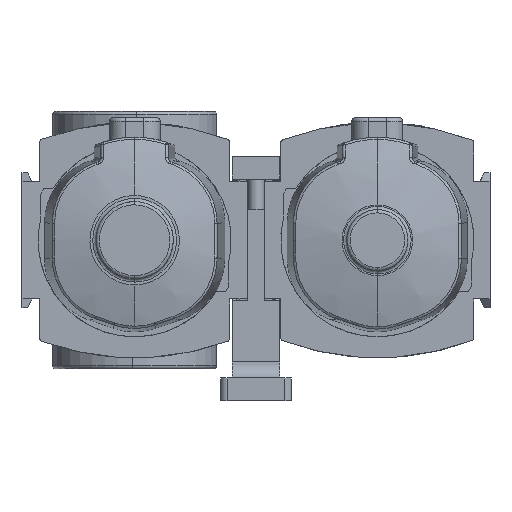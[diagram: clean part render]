
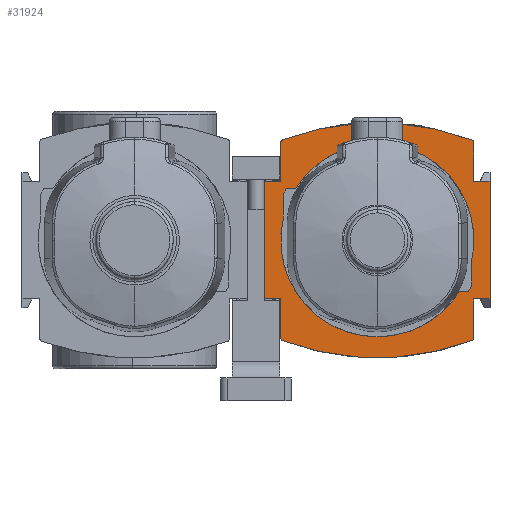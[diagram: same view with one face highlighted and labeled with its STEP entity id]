
A CAD part, front view. The second image highlights one B-rep face of the part: STEP entity #31924.
In plain terms, the highlighted planar face has unit normal (0, -1, 0).
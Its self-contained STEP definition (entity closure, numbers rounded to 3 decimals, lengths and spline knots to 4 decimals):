
#19921=FACE_BOUND('',#39146,.T.);
#23028=LINE('',#108341,#27191);
#23031=LINE('',#108349,#27194);
#23034=LINE('',#108357,#27197);
#23038=LINE('',#108369,#27201);
#23143=LINE('',#109538,#27319);
#23148=LINE('',#109548,#27324);
#23151=LINE('',#109553,#27327);
#23166=LINE('',#109603,#27342);
#23203=LINE('',#109677,#27379);
#23207=LINE('',#109684,#27383);
#23209=LINE('',#109687,#27385);
#23210=LINE('',#109695,#27386);
#23211=LINE('',#109696,#27387);
#23212=LINE('',#109697,#27388);
#27191=VECTOR('',#78359,1.);
#27194=VECTOR('',#78368,1.);
#27197=VECTOR('',#78377,1.);
#27201=VECTOR('',#78391,1.);
#27319=VECTOR('',#78691,1.);
#27324=VECTOR('',#78698,1.);
#27327=VECTOR('',#78703,1.);
#27342=VECTOR('',#78744,1.);
#27379=VECTOR('',#78805,1.);
#27383=VECTOR('',#78811,1.);
#27385=VECTOR('',#78815,1.);
#27386=VECTOR('',#78822,1.);
#27387=VECTOR('',#78823,1.);
#27388=VECTOR('',#78824,1.);
#29660=CIRCLE('',#69624,1.2795);
#29661=CIRCLE('',#69627,1.1811);
#29662=CIRCLE('',#69630,1.2795);
#29663=CIRCLE('',#69633,1.1811);
#29664=CIRCLE('',#69635,1.1811);
#29693=CIRCLE('',#69732,0.0394);
#29695=CIRCLE('',#69735,3.3071);
#29698=CIRCLE('',#69739,0.0394);
#29699=CIRCLE('',#69757,0.0394);
#29700=CIRCLE('',#69758,3.3071);
#29701=CIRCLE('',#69759,0.0394);
#31924=ADVANCED_FACE('',(#36256,#19921),#33708,.F.);
#33708=PLANE('',#69760);
#36256=FACE_OUTER_BOUND('',#39145,.T.);
#39145=EDGE_LOOP('',(#49566,#49567,#49568,#49569,#49570,#49571,#49572,#49573,
#49574,#49575,#49576,#49577,#49578,#49579,#49580,#49581));
#39146=EDGE_LOOP('',(#49582,#49583,#49584,#49585,#49586,#49587,#49588,#49589,
#49590));
#49566=ORIENTED_EDGE('',*,*,#63306,.F.);
#49567=ORIENTED_EDGE('',*,*,#63307,.T.);
#49568=ORIENTED_EDGE('',*,*,#63308,.T.);
#49569=ORIENTED_EDGE('',*,*,#63309,.T.);
#49570=ORIENTED_EDGE('',*,*,#63310,.F.);
#49571=ORIENTED_EDGE('',*,*,#63240,.T.);
#49572=ORIENTED_EDGE('',*,*,#63232,.F.);
#49573=ORIENTED_EDGE('',*,*,#63237,.T.);
#49574=ORIENTED_EDGE('',*,*,#63311,.F.);
#49575=ORIENTED_EDGE('',*,*,#63244,.T.);
#49576=ORIENTED_EDGE('',*,*,#63249,.T.);
#49577=ORIENTED_EDGE('',*,*,#63253,.T.);
#49578=ORIENTED_EDGE('',*,*,#63312,.F.);
#49579=ORIENTED_EDGE('',*,*,#63263,.T.);
#49580=ORIENTED_EDGE('',*,*,#63300,.F.);
#49581=ORIENTED_EDGE('',*,*,#63304,.T.);
#49582=ORIENTED_EDGE('',*,*,#63043,.T.);
#49583=ORIENTED_EDGE('',*,*,#63041,.T.);
#49584=ORIENTED_EDGE('',*,*,#63039,.T.);
#49585=ORIENTED_EDGE('',*,*,#63037,.T.);
#49586=ORIENTED_EDGE('',*,*,#63035,.T.);
#49587=ORIENTED_EDGE('',*,*,#63033,.T.);
#49588=ORIENTED_EDGE('',*,*,#63031,.T.);
#49589=ORIENTED_EDGE('',*,*,#63029,.T.);
#49590=ORIENTED_EDGE('',*,*,#63026,.T.);
#56879=VERTEX_POINT('',#108336);
#56880=VERTEX_POINT('',#108337);
#56881=VERTEX_POINT('',#108342);
#56882=VERTEX_POINT('',#108346);
#56883=VERTEX_POINT('',#108350);
#56884=VERTEX_POINT('',#108354);
#56885=VERTEX_POINT('',#108358);
#56886=VERTEX_POINT('',#108362);
#56887=VERTEX_POINT('',#108366);
#57023=VERTEX_POINT('',#109537);
#57024=VERTEX_POINT('',#109539);
#57027=VERTEX_POINT('',#109547);
#57029=VERTEX_POINT('',#109554);
#57032=VERTEX_POINT('',#109561);
#57033=VERTEX_POINT('',#109563);
#57037=VERTEX_POINT('',#109573);
#57039=VERTEX_POINT('',#109580);
#57048=VERTEX_POINT('',#109602);
#57049=VERTEX_POINT('',#109604);
#57073=VERTEX_POINT('',#109676);
#57075=VERTEX_POINT('',#109683);
#57076=VERTEX_POINT('',#109688);
#57077=VERTEX_POINT('',#109690);
#57078=VERTEX_POINT('',#109692);
#57079=VERTEX_POINT('',#109694);
#63026=EDGE_CURVE('',#56879,#56880,#29660,.T.);
#63029=EDGE_CURVE('',#56881,#56879,#23028,.T.);
#63031=EDGE_CURVE('',#56882,#56881,#29661,.T.);
#63033=EDGE_CURVE('',#56883,#56882,#23031,.T.);
#63035=EDGE_CURVE('',#56884,#56883,#29662,.T.);
#63037=EDGE_CURVE('',#56885,#56884,#23034,.T.);
#63039=EDGE_CURVE('',#56886,#56885,#29663,.T.);
#63041=EDGE_CURVE('',#56887,#56886,#29664,.T.);
#63043=EDGE_CURVE('',#56880,#56887,#23038,.T.);
#63232=EDGE_CURVE('',#57023,#57024,#23143,.T.);
#63237=EDGE_CURVE('',#57023,#57027,#23148,.T.);
#63240=EDGE_CURVE('',#57029,#57024,#23151,.T.);
#63244=EDGE_CURVE('',#57033,#57032,#29693,.T.);
#63249=EDGE_CURVE('',#57032,#57037,#29695,.T.);
#63253=EDGE_CURVE('',#57037,#57039,#29698,.T.);
#63263=EDGE_CURVE('',#57049,#57048,#23166,.T.);
#63300=EDGE_CURVE('',#57073,#57048,#23203,.T.);
#63304=EDGE_CURVE('',#57073,#57075,#23207,.T.);
#63306=EDGE_CURVE('',#57076,#57075,#23209,.T.);
#63307=EDGE_CURVE('',#57076,#57077,#29699,.T.);
#63308=EDGE_CURVE('',#57077,#57078,#29700,.T.);
#63309=EDGE_CURVE('',#57078,#57079,#29701,.T.);
#63310=EDGE_CURVE('',#57029,#57079,#23210,.T.);
#63311=EDGE_CURVE('',#57033,#57027,#23211,.T.);
#63312=EDGE_CURVE('',#57049,#57039,#23212,.T.);
#69624=AXIS2_PLACEMENT_3D('',#108335,#78353,#78354);
#69627=AXIS2_PLACEMENT_3D('',#108345,#78363,#78364);
#69630=AXIS2_PLACEMENT_3D('',#108353,#78372,#78373);
#69633=AXIS2_PLACEMENT_3D('',#108361,#78381,#78382);
#69635=AXIS2_PLACEMENT_3D('',#108365,#78386,#78387);
#69732=AXIS2_PLACEMENT_3D('',#109562,#78710,#78711);
#69735=AXIS2_PLACEMENT_3D('',#109574,#78718,#78719);
#69739=AXIS2_PLACEMENT_3D('',#109581,#78727,#78728);
#69757=AXIS2_PLACEMENT_3D('',#109689,#78816,#78817);
#69758=AXIS2_PLACEMENT_3D('',#109691,#78818,#78819);
#69759=AXIS2_PLACEMENT_3D('',#109693,#78820,#78821);
#69760=AXIS2_PLACEMENT_3D('',#109698,#78825,#78826);
#78353=DIRECTION('',(0.,1.,0.));
#78354=DIRECTION('',(0.,0.,1.));
#78359=DIRECTION('',(0.,0.,1.));
#78363=DIRECTION('',(0.,1.,0.));
#78364=DIRECTION('',(0.,0.,1.));
#78368=DIRECTION('',(-1.,0.,0.));
#78372=DIRECTION('',(0.,1.,0.));
#78373=DIRECTION('',(0.,0.,1.));
#78377=DIRECTION('',(0.,0.,-1.));
#78381=DIRECTION('',(0.,1.,0.));
#78382=DIRECTION('',(0.,0.,1.));
#78386=DIRECTION('',(0.,1.,0.));
#78387=DIRECTION('',(0.,0.,1.));
#78391=DIRECTION('',(1.,0.,0.));
#78691=DIRECTION('',(0.,0.,1.));
#78698=DIRECTION('',(1.,0.,0.));
#78703=DIRECTION('',(-1.,0.,0.));
#78710=DIRECTION('',(0.,-1.,0.));
#78711=DIRECTION('',(0.,0.,1.));
#78718=DIRECTION('',(0.,-1.,0.));
#78719=DIRECTION('',(0.,0.,1.));
#78727=DIRECTION('',(0.,-1.,0.));
#78728=DIRECTION('',(0.,0.,1.));
#78744=DIRECTION('',(1.,0.,0.));
#78805=DIRECTION('',(0.,0.,-1.));
#78811=DIRECTION('',(-1.,0.,0.));
#78815=DIRECTION('',(0.,0.,-1.));
#78816=DIRECTION('',(0.,-1.,0.));
#78817=DIRECTION('',(0.,0.,1.));
#78818=DIRECTION('',(0.,-1.,0.));
#78819=DIRECTION('',(0.,0.,1.));
#78820=DIRECTION('',(0.,-1.,0.));
#78821=DIRECTION('',(0.,0.,1.));
#78822=DIRECTION('',(0.,0.,1.));
#78823=DIRECTION('',(0.,0.,1.));
#78824=DIRECTION('',(0.,0.,-1.));
#78825=DIRECTION('',(0.,1.,0.));
#78826=DIRECTION('',(0.,0.,1.));
#108335=CARTESIAN_POINT('',(2.9685,0.,0.));
#108336=CARTESIAN_POINT('',(1.8189,0.,0.5617));
#108337=CARTESIAN_POINT('',(1.8548,0.,0.6299));
#108341=CARTESIAN_POINT('',(1.8189,0.,0.5617));
#108342=CARTESIAN_POINT('',(1.8189,0.,0.2708));
#108345=CARTESIAN_POINT('',(2.9685,0.,0.));
#108346=CARTESIAN_POINT('',(3.9676,0.,-0.6299));
#108349=CARTESIAN_POINT('',(3.9676,0.,-0.6299));
#108350=CARTESIAN_POINT('',(4.0822,0.,-0.6299));
#108353=CARTESIAN_POINT('',(2.9685,0.,0.));
#108354=CARTESIAN_POINT('',(4.1181,0.,-0.5617));
#108357=CARTESIAN_POINT('',(4.1181,0.,-0.5617));
#108358=CARTESIAN_POINT('',(4.1181,0.,-0.2708));
#108361=CARTESIAN_POINT('',(2.9685,0.,0.));
#108362=CARTESIAN_POINT('',(2.9685,0.,1.1811));
#108365=CARTESIAN_POINT('',(2.9685,0.,0.));
#108366=CARTESIAN_POINT('',(1.9694,0.,0.6299));
#108369=CARTESIAN_POINT('',(1.9694,0.,0.6299));
#109537=CARTESIAN_POINT('',(1.5906,0.,-0.7185));
#109538=CARTESIAN_POINT('',(1.5906,0.,-1.437));
#109539=CARTESIAN_POINT('',(1.5906,0.,0.7185));
#109547=CARTESIAN_POINT('',(1.7874,0.,-0.7185));
#109548=CARTESIAN_POINT('',(1.5906,0.,-0.7185));
#109553=CARTESIAN_POINT('',(1.7874,0.,0.7185));
#109554=CARTESIAN_POINT('',(1.7874,0.,0.7185));
#109561=CARTESIAN_POINT('',(1.813,0.,-1.2286));
#109562=CARTESIAN_POINT('',(1.8268,0.,-1.1917));
#109563=CARTESIAN_POINT('',(1.7874,0.,-1.1917));
#109573=CARTESIAN_POINT('',(4.124,0.,-1.2286));
#109574=CARTESIAN_POINT('',(2.9685,0.,1.8701));
#109580=CARTESIAN_POINT('',(4.1496,0.,-1.1917));
#109581=CARTESIAN_POINT('',(4.1102,0.,-1.1917));
#109602=CARTESIAN_POINT('',(4.3465,0.,-0.7185));
#109603=CARTESIAN_POINT('',(4.1496,0.,-0.7185));
#109604=CARTESIAN_POINT('',(4.1496,0.,-0.7185));
#109676=CARTESIAN_POINT('',(4.3465,0.,0.7185));
#109677=CARTESIAN_POINT('',(4.3465,0.,-1.437));
#109683=CARTESIAN_POINT('',(4.1496,0.,0.7185));
#109684=CARTESIAN_POINT('',(4.3465,0.,0.7185));
#109687=CARTESIAN_POINT('',(4.1496,0.,1.2189));
#109688=CARTESIAN_POINT('',(4.1496,0.,1.1917));
#109689=CARTESIAN_POINT('',(4.1102,0.,1.1917));
#109690=CARTESIAN_POINT('',(4.124,0.,1.2286));
#109691=CARTESIAN_POINT('',(2.9685,0.,-1.8701));
#109692=CARTESIAN_POINT('',(1.813,0.,1.2286));
#109693=CARTESIAN_POINT('',(1.8268,0.,1.1917));
#109694=CARTESIAN_POINT('',(1.7874,0.,1.1917));
#109695=CARTESIAN_POINT('',(1.7874,0.,1.2189));
#109696=CARTESIAN_POINT('',(1.7874,0.,-1.2189));
#109697=CARTESIAN_POINT('',(4.1496,0.,-1.2189));
#109698=CARTESIAN_POINT('',(1.5906,0.,1.437));
